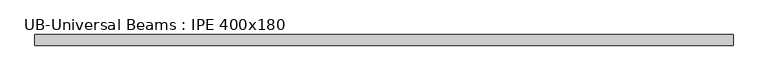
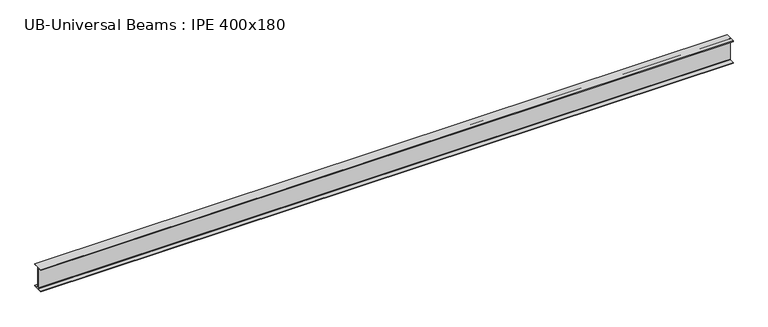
"""IFC4 building model written with IfcOpenShell, lengths in millimetres: beam geometry, UB-Universal Beams : IPE 400x180."""

from ifc_helpers import new_model, si_unit, point, frame, frame_2d, origin, place, context, project, spatial, polyline, circle_curve, trimmed, segment, composite_curve, outline, extrude, source, transform, mapped, element, save


def ub_universal_beams_ipe_400x180_227b6903(model_context):
    return source(origin(), model_context, "Body", "SweptSolid", [
        extrude(outline(composite_curve([segment(polyline([(90.0, -189.8), (90.0, -200.0), (-90.0, -200.0), (-90.0, -189.8), (-11.9, -189.8)]), True, "CONTINUOUS"), segment(trimmed(circle_curve(frame_2d((-11.9, -180.9)), 8.9), [point((-11.9, -189.8))], [point((-3.0, -180.9))], True, "CARTESIAN"), True, "CONTINUOUS"), segment(polyline([(-3.0, -180.9), (-3.0, 180.9)]), True, "CONTINUOUS"), segment(trimmed(circle_curve(frame_2d((-11.9, 180.9)), 8.9), [point((-3.0, 180.9))], [point((-11.9, 189.8))], True, "CARTESIAN"), True, "CONTINUOUS"), segment(polyline([(-11.9, 189.8), (-90.0, 189.8), (-90.0, 200.0), (90.0, 200.0), (90.0, 189.8), (11.9, 189.8)]), True, "CONTINUOUS"), segment(trimmed(circle_curve(frame_2d((11.9, 180.9)), 8.9), [point((11.9, 189.8))], [point((3.0, 180.9))], True, "CARTESIAN"), True, "CONTINUOUS"), segment(polyline([(3.0, 180.9), (3.0, -180.9)]), True, "CONTINUOUS"), segment(trimmed(circle_curve(frame_2d((11.9, -180.9)), 8.9), [point((3.0, -180.9))], [point((11.9, -189.8))], True, "CARTESIAN"), True, "CONTINUOUS"), segment(polyline([(11.9, -189.8), (90.0, -189.8)]), True, "CONTINUOUS")], self_intersect=False)), frame((-5771.95, 0.0, 0.0), z_axis=(1.0, 0.0, 0.0), x_axis=(0.0, 1.0, 0.0)), (0.0, 0.0, 1.0), 11811.7),
    ])


if __name__ == "__main__":
    model = new_model("IFC4")
    model_context = context("Model", 3, world=origin())
    ifc_project = project(units=[si_unit("LENGTHUNIT", "METRE", prefix="MILLI")], contexts=[model_context])
    site = spatial("IfcSite", under=ifc_project)
    building = spatial("IfcBuilding", under=site)
    placement = place(None, origin())
    ub_universal_beams_ipe_400x180_shape = ub_universal_beams_ipe_400x180_227b6903(model_context)
    element("IfcBeam", 1, ObjectType="UB-Universal Beams : IPE 400x180", at=placement, inside=building, context=model_context, shape_type="MappedRepresentation", body=[
        mapped(ub_universal_beams_ipe_400x180_shape, transform((0.0, 0.0, 0.0), x_axis=(1.0, 0.0, 0.0), y_axis=(0.0, 1.0, 0.0), z_axis=(0.0, 0.0, 1.0))),
    ])
    save(model, "model.ifc")
